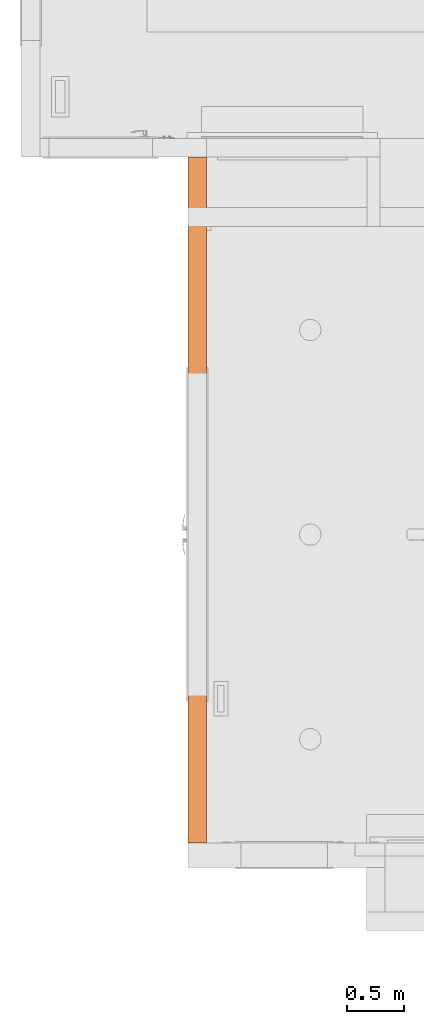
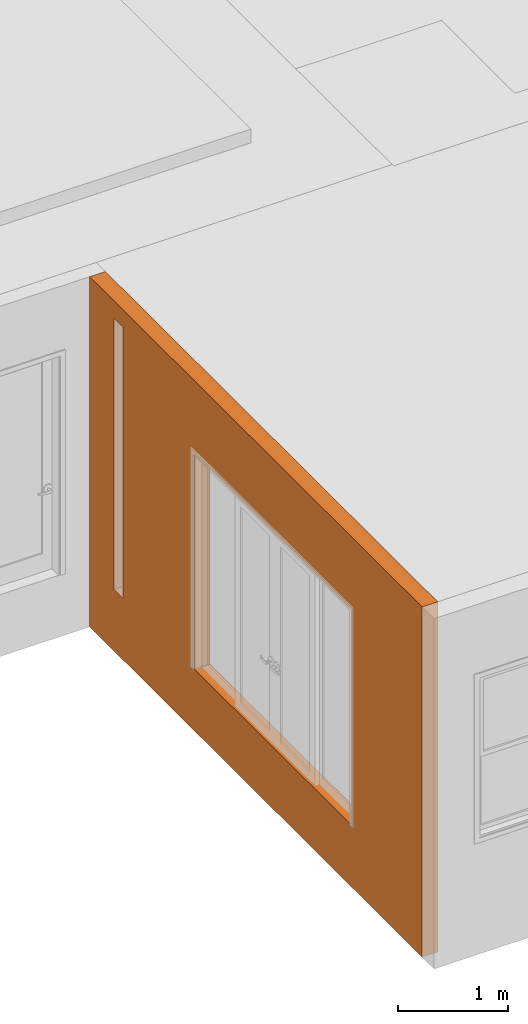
# One storey, part 78 of 103: 1 proxy.
"""IFC2X3 building model written with IfcOpenShell, lengths in inches."""

from ifc_helpers import new_model, entity, si_unit, converted_unit, derived_unit, money_unit, direction, frame, origin_with_axes, place, context, subcontext, project, spatial, faceted_brep, material, type_object, element, save


model = new_model("IFC2X3")

# Units and contexts
model_context = context("Model", 3, precision=0.00039370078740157, world=origin_with_axes(), true_north=direction((0.0, 1.0)))
plan_context = context("Plan", 3, precision=0.00039370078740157, world=origin_with_axes(), true_north=direction((0.0, 1.0)))
body_context = subcontext(model_context, "Body", "Model", "MODEL_VIEW")
ifc_project = project(units=[converted_unit("LENGTHUNIT", "INCH", entity("IfcPositiveLengthMeasure", 0.0254), si_unit("LENGTHUNIT", "METRE"), dimensions=[1, 0, 0, 0, 0, 0, 0]), converted_unit("AREAUNIT", "SQUARE_FOOT", entity("IfcPositiveLengthMeasure", 0.09290304), si_unit("AREAUNIT", "SQUARE_METRE"), dimensions=[2, 0, 0, 0, 0, 0, 0]), si_unit("PLANEANGLEUNIT", "RADIAN"), si_unit("SOLIDANGLEUNIT", "STERADIAN"), money_unit("USD"), converted_unit("TIMEUNIT", "Year", entity("IfcTimeMeasure", 31557600.0), si_unit("TIMEUNIT", "SECOND"), dimensions=[0, 0, 1, 0, 0, 0, 0]), si_unit("MASSUNIT", "GRAM", prefix="KILO"), si_unit("THERMODYNAMICTEMPERATUREUNIT", "DEGREE_CELSIUS"), si_unit("LUMINOUSINTENSITYUNIT", "LUMEN"), si_unit("ENERGYUNIT", "JOULE", prefix="MEGA"), derived_unit("SPECIFICHEATCAPACITYUNIT", [(si_unit("ENERGYUNIT", "JOULE"), 1), (si_unit("MASSUNIT", "GRAM", prefix="KILO"), -1), (si_unit("THERMODYNAMICTEMPERATUREUNIT", "KELVIN"), -1)])], contexts=[model_context, plan_context])

# Site, building, storey
site_placement = place(None, origin_with_axes())
site = spatial("IfcSite", under=ifc_project, at=site_placement, Name="Site", CompositionType="ELEMENT")
building_placement = place(site_placement, origin_with_axes())
building = spatial("IfcBuilding", under=site, at=building_placement, Name="Building", CompositionType="ELEMENT")
storey_placement = place(building_placement, frame((0.0, 0.0, 127.9999999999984), z_axis=(0.0, 0.0, 1.0), x_axis=(1.0, 0.0, 0.0)))
storey = spatial("IfcBuildingStorey", under=building, at=storey_placement, Name="Second Floor", CompositionType="ELEMENT", Elevation=128.0)

# Proxy
ifc_material = material(Name="Generic - Structural")
building_element_proxy_type = type_object("IfcBuildingElementProxyType", Name="Generic - Structural 6 1/2\"", PredefinedType="NOTDEFINED")
proxy_placement = place(storey_placement, frame((-198.0004321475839, 134.4999889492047, -26.9999999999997), z_axis=(0.0, 0.0, 1.0), x_axis=(0.0, 1.0, 0.0)))
element("IfcBuildingElementProxy", 1, at=proxy_placement, inside=storey, type_object=building_element_proxy_type, material=ifc_material, Name="SW - 112", context=body_context, shape_type="Brep", body=[
    faceted_brep([(238.0000110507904, 6.499999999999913, 152.9999999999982), (238.0000110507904, 6.499999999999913, 0.0), (-1.158542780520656e-06, 6.499999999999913, 0.0), (-1.158542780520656e-06, 6.499999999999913, 152.9999999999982), (214.0000110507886, 6.499999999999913, 26.9999999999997), (220.5000110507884, 6.499999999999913, 26.9999999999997), (220.5000110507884, 6.499999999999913, 145.4999999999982), (214.0000110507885, 6.499999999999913, 145.4999999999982), (51.00031852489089, 6.499999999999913, 26.9999999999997), (163.0003185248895, 6.499999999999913, 26.9999999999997), (163.0003185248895, 6.499999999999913, 120.9999999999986), (51.00031852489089, 6.499999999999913, 120.9999999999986), (238.0000110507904, 0.0, 152.9999999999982), (238.0000110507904, 0.0, 0.0), (0.0, 0.0, 0.0), (0.0, 0.0, 152.9999999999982), (214.0000110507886, 0.0, 26.9999999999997), (220.5000110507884, 0.0, 26.9999999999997), (220.5000110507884, 0.0, 145.4999999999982), (214.0000110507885, 0.0, 145.4999999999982), (51.00031852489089, 0.0, 26.9999999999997), (163.0003185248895, 0.0, 26.9999999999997), (163.0003185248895, 0.0, 120.9999999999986), (51.00031852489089, 0.0, 120.9999999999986)], [[[0, 1, 2, 3], [4, 5, 6, 7], [8, 9, 10, 11]], [[0, 12, 13, 1]], [[1, 13, 14, 2]], [[14, 15, 3, 2]], [[12, 0, 3, 15]], [[16, 17, 5, 4]], [[17, 18, 6, 5]], [[18, 19, 7, 6]], [[19, 16, 4, 7]], [[20, 21, 9, 8]], [[21, 22, 10, 9]], [[22, 23, 11, 10]], [[23, 20, 8, 11]], [[13, 12, 15, 14], [16, 19, 18, 17], [20, 23, 22, 21]]]),
])

save(model, "model.ifc")
